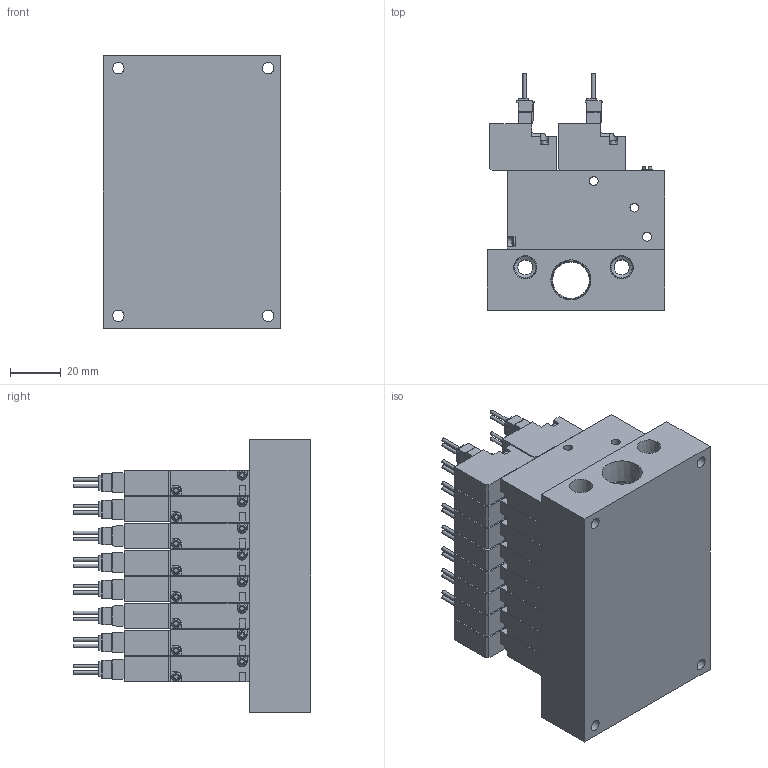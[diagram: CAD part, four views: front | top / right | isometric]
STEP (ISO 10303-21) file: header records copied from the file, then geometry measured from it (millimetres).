
FILE_DESCRIPTION(('STEP AP203'),'1');
FILE_NAME('BMPV42MZZ5A(B)808.stp','2025-04-30T07:04:40',(' '),(' '),'Spatial InterOp 3D',' ',' ');
FILE_SCHEMA(('CONFIG_CONTROL_DESIGN'));
Length unit declared in the file: millimetre
Products named in the file (13): BMPV42MZZ5A(B)808; VACUUM VALVE FUNCTION MPV42-A; UNIT-MPV42; MC4-M8
Assembly tree (25 placements, depth 2):
  BMPV42MZZ5A(B)808
    VACUUM VALVE FUNCTION MPV42-A  x10
    UNIT-MPV42  x5
    UNIT-MPV42
    VACUUM VALVE FUNCTION MPV42-A
    VACUUM VALVE FUNCTION MPV42-A
    VACUUM VALVE FUNCTION MPV42-A
    VACUUM VALVE FUNCTION MPV42-A
    UNIT-MPV42
    MC4-M8
    VACUUM VALVE FUNCTION MPV42-A
    VACUUM VALVE FUNCTION MPV42-A
    UNIT-MPV42
Bounding box: 70 x 93.45 x 107.5 mm (x, y, z)
Volume: 379052.3 mm3; surface area: 119666.1 mm2
Topology: 25 solids, 25 shells, 2121 faces, 5715 edges, 3804 vertices
Faces by surface type: plane 1718, cylinder 331, cone 40, sphere 16, torus 16
Full cylindrical faces by diameter (mm): 1.4 x32, 1.8 x8, 2.2 x16, 3 x32, 3.5 x56, 4.134 x8, 4.5 x4, 5 x8, 6 x2, 8.2 x4, 14.5 x1
Entity records: 30388 total; most frequent: CARTESIAN_POINT 5578, ORIENTED_EDGE 4872, DIRECTION 4862, EDGE_CURVE 2436, LINE 1954, VECTOR 1954, VERTEX_POINT 1690, AXIS2_PLACEMENT_3D 1454
